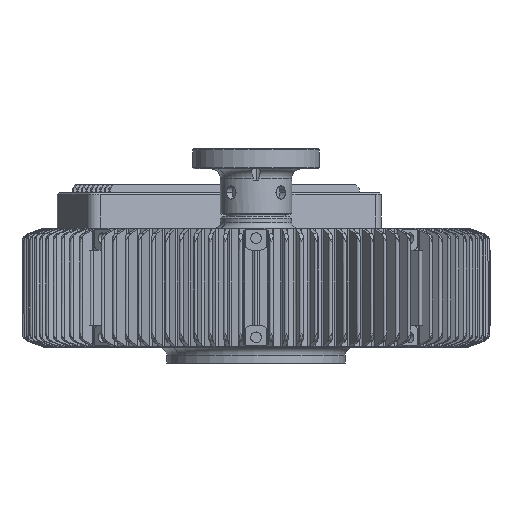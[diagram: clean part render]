
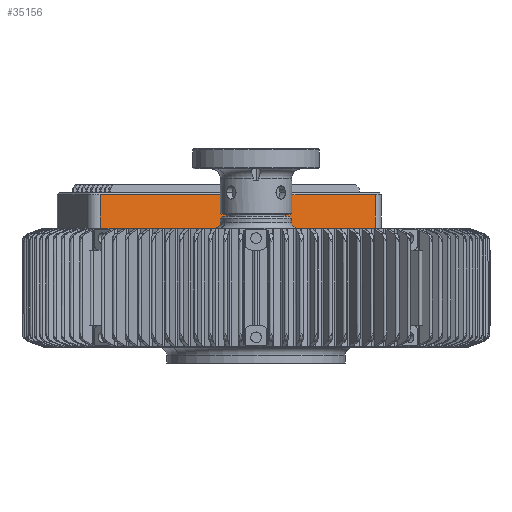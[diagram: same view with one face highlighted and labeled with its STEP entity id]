
A CAD part, front view. The second image highlights one B-rep face of the part: STEP entity #35156.
In plain terms, the highlighted planar face has unit normal (0.383, -0.924, 0).
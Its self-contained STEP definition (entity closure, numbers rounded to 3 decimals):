
#227 = VERTEX_POINT ( 'NONE', #30823 ) ;
#1501 = CARTESIAN_POINT ( 'NONE',  ( 30.065, 25.41, 25.25 ) ) ;
#4075 = VERTEX_POINT ( 'NONE', #34617 ) ;
#4395 = DIRECTION ( 'NONE',  ( 0.924, 0.383, 0. ) ) ;
#6016 = LINE ( 'NONE', #33065, #42923 ) ;
#6230 = ORIENTED_EDGE ( 'NONE', *, *, #17996, .F. ) ;
#10292 = DIRECTION ( 'NONE',  ( 0.924, 0.383, 0. ) ) ;
#13109 = EDGE_CURVE ( 'NONE', #43155, #24046, #44361, .T. ) ;
#13673 = DIRECTION ( 'NONE',  ( 0., 0., -1. ) ) ;
#15051 = DIRECTION ( 'NONE',  ( 0., 0., 1. ) ) ;
#16316 = AXIS2_PLACEMENT_3D ( 'NONE', #59368, #36519, #13673 ) ;
#17996 = EDGE_CURVE ( 'NONE', #227, #43155, #6016, .T. ) ;
#19833 = DIRECTION ( 'NONE',  ( 0., 0., 1. ) ) ;
#22677 = CARTESIAN_POINT ( 'NONE',  ( 30.065, 25.41, 29.5 ) ) ;
#23514 = LINE ( 'NONE', #55976, #32985 ) ;
#24046 = VERTEX_POINT ( 'NONE', #22677 ) ;
#27174 = FACE_OUTER_BOUND ( 'NONE', #33210, .T. ) ;
#27349 = VECTOR ( 'NONE', #19833, 1000. ) ;
#28016 = EDGE_CURVE ( 'NONE', #227, #4075, #23514, .T. ) ;
#30823 = CARTESIAN_POINT ( 'NONE',  ( -39.226, -3.291, 21. ) ) ;
#32985 = VECTOR ( 'NONE', #10292, 1000. ) ;
#33065 = CARTESIAN_POINT ( 'NONE',  ( -39.226, -3.291, 26.5 ) ) ;
#33210 = EDGE_LOOP ( 'NONE', ( #6230, #40584, #35831, #43617 ) ) ;
#34617 = CARTESIAN_POINT ( 'NONE',  ( 30.065, 25.41, 21. ) ) ;
#35156 = ADVANCED_FACE ( 'NONE', ( #27174 ), #41035, .T. ) ;
#35831 = ORIENTED_EDGE ( 'NONE', *, *, #47881, .T. ) ;
#36519 = DIRECTION ( 'NONE',  ( 0.383, -0.924, 0. ) ) ;
#39419 = CARTESIAN_POINT ( 'NONE',  ( -39.226, -3.291, 29.5 ) ) ;
#40584 = ORIENTED_EDGE ( 'NONE', *, *, #28016, .T. ) ;
#41035 = PLANE ( 'NONE',  #16316 ) ;
#42923 = VECTOR ( 'NONE', #15051, 1000. ) ;
#43155 = VERTEX_POINT ( 'NONE', #39419 ) ;
#43617 = ORIENTED_EDGE ( 'NONE', *, *, #13109, .F. ) ;
#44361 = LINE ( 'NONE', #49778, #47719 ) ;
#47183 = LINE ( 'NONE', #1501, #27349 ) ;
#47719 = VECTOR ( 'NONE', #4395, 1000. ) ;
#47881 = EDGE_CURVE ( 'NONE', #4075, #24046, #47183, .T. ) ;
#49778 = CARTESIAN_POINT ( 'NONE',  ( -9.091, 9.191, 29.5 ) ) ;
#55976 = CARTESIAN_POINT ( 'NONE',  ( -4.581, 11.059, 21. ) ) ;
#59368 = CARTESIAN_POINT ( 'NONE',  ( -39.226, -3.291, 21. ) ) ;
